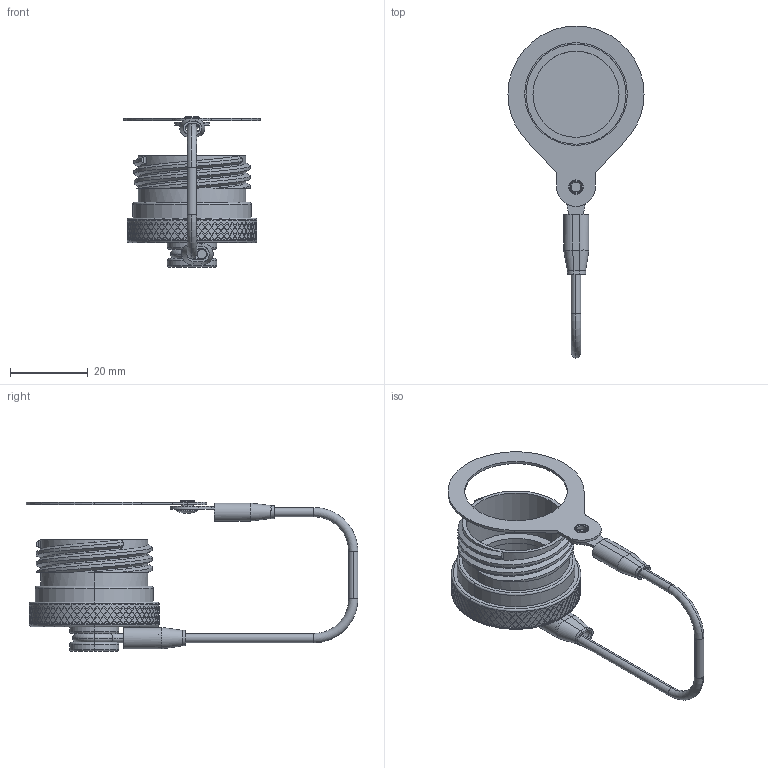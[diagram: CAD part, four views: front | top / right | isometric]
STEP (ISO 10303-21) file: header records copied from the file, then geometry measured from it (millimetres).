
FILE_DESCRIPTION (( 'STEP AP214' ), '1' );
FILE_NAME ('Q38DC-PRX-17-R0.STEP', '2026-04-22T18:38:30', ( '' ), ( '' ), 'SwSTEP 2.0', 'SolidWorks 2024', '' );
FILE_SCHEMA (( 'AUTOMOTIVE_DESIGN' ));
Length unit declared in the file: inch
Products named in the file (11): LN-06-07-13_Q38DC-PRX-17 (Assembled); HEAT SHRINK_HS-250X625_SW-348; SW-XRXX_SW-SR17; SW-347; Q38DC-PRX-17-R0; HEAT SHRINK_HS-125-625S; Lanyard Assembly Q38_Q38DC-PRX-17 (Assembled); Q38-XX29-P_17P; SW-349_SW-349; Q38-XX28-X_Q38-1728; SW-348
Assembly tree (10 placements, depth 3):
  Q38DC-PRX-17-R0
    Q38-XX28-X_Q38-1728
    Lanyard Assembly Q38_Q38DC-PRX-17 (Assembled)
      LN-06-07-13_Q38DC-PRX-17 (Assembled)
      SW-348
      HEAT SHRINK_HS-250X625_SW-348
      SW-347
      HEAT SHRINK_HS-125-625S
      SW-349_SW-349
      SW-XRXX_SW-SR17
    Q38-XX29-P_17P
Bounding box: 35.1 x 85.59 x 38.81 mm (x, y, z)
Volume: 9244.2 mm3; surface area: 11120.9 mm2
Topology: 9 solids, 9 shells, 1730 faces, 4151 edges, 2740 vertices
Faces by surface type: plane 1287, cylinder 392, torus 32, bspline 17, sphere 2
Entity records: 52102 total; most frequent: CARTESIAN_POINT 17558, ORIENTED_EDGE 8302, DIRECTION 5841, EDGE_CURVE 4151, VERTEX_POINT 2740, AXIS2_PLACEMENT_3D 2196, EDGE_LOOP 2045, FACE_OUTER_BOUND 1730
